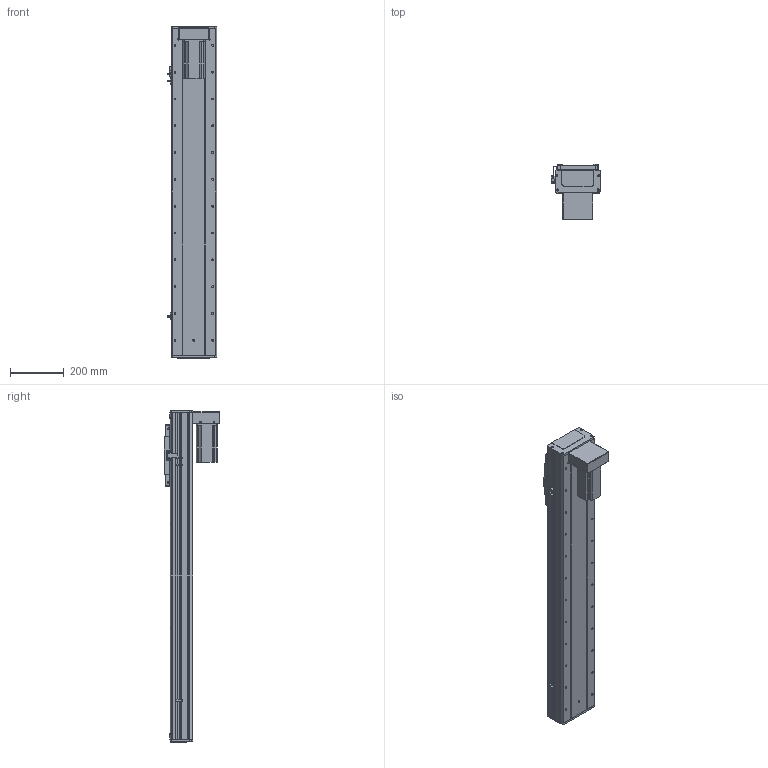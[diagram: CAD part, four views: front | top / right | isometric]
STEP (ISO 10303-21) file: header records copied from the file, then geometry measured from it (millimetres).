
FILE_DESCRIPTION (( 'STEP AP203' ), '1' );
FILE_NAME ('RY170F-L2010-300-BK.SLDASM_900.step', '2021-03-02T08:56:09', ( '盈信电脑' ), ( '东莞市道滘镇水果街19号' ), 'SwSTEP 2.0', 'SolidWorks 2012', '' );
FILE_SCHEMA (( 'CONFIG_CONTROL_DESIGN' ));
Length unit declared in the file: millimetre
Products named in the file (20): RY170F-L2010-300-BK.SLDASM_900; RY170F狟殏萇儂欶; RY170狟殏詩湍假蚾輸; 怢湛750W萇儂ㄗ80遺ㄘ; 滅袉蝶18-24; RY170F-狟殏萇儂假蚾啣(750W); RY170F-詩湍揤踡輸; 侐源滅袉蝶; 覜茼ん672; RY170F-揤踡謫假蚾粣; RY170F俋离覜茼え; RY170F-綴裔啣; RY100F-詩湍揤踡謫; 滅袉蝶18-10; RY170F-丝杆铝滑块连接板; RY170F-300眻蟀倰第奻裔啣-BK_900; RY170F-滅鳥奻裔; RY170F-300眻蟀倰第菁釱-BK_900; RY170F-佪裝臏賑輸20蹟譫; RY170F-300眻蟀祥凄詩湍-MK_900
Assembly tree (25 placements, depth 2):
  RY170F-L2010-300-BK.SLDASM_900
    RY170F-300眻蟀祥凄詩湍-MK_900
    RY170F-300眻蟀倰第奻裔啣-BK_900  x2
    RY170F-滅鳥奻裔
    RY170F-300眻蟀倰第菁釱-BK_900
    RY170F-佪裝臏賑輸20蹟譫
    RY170F-丝杆铝滑块连接板
    滅袉蝶18-10
    RY100F-詩湍揤踡謫
    RY170F-綴裔啣  x2
    覜茼ん672  x3
    RY170F俋离覜茼え
    RY170F-揤踡謫假蚾粣
    RY170F-詩湍揤踡輸  x2
    滅袉蝶18-24
    侐源滅袉蝶  x2
    RY170F-狟殏萇儂假蚾啣(750W)
    怢湛750W萇儂ㄗ80遺ㄘ
    RY170F狟殏萇儂欶
    RY170狟殏詩湍假蚾輸
Bounding box: 183.7 x 208 x 1238 mm (x, y, z)
Volume: 7075885.8 mm3; surface area: 2333178.3 mm2
Topology: 25 solids, 25 shells, 1890 faces, 5221 edges, 3304 vertices
Faces by surface type: cylinder 904, plane 762, cone 220, bspline 4
Entity records: 52824 total; most frequent: CARTESIAN_POINT 10492, DIRECTION 8610, ORIENTED_EDGE 8158, EDGE_CURVE 4079, AXIS2_PLACEMENT_3D 3118, VERTEX_POINT 2660, LINE 2374, VECTOR 2374
